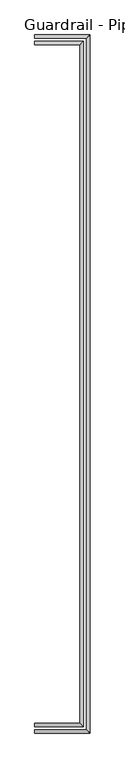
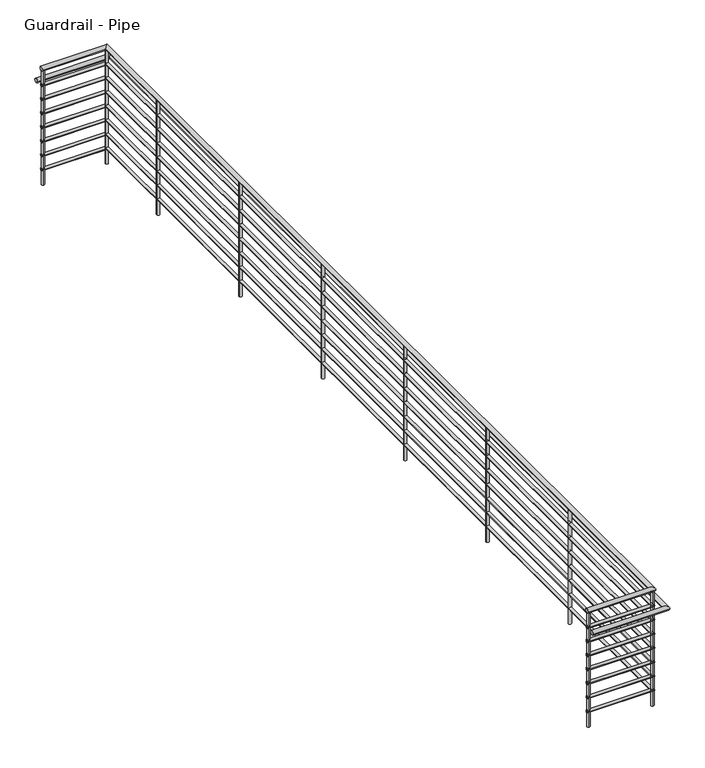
"""IFC4 building model written with IfcOpenShell, lengths in millimetres: railing geometry, Guardrail - Pipe."""

from ifc_helpers import new_model, si_unit, point, frame, frame_2d, origin, place, context, project, spatial, circle_curve, ellipse_curve, trimmed, segment, composite_curve, outline, extrude, source, transform, mapped, element, save
from ifc_brep_helpers import plane_surface, cylinder_surface, advanced_brep


def guardrail_pipe_e3ced1c5(model_context):
    return source(origin(), model_context, "Body", "SolidModel", [
        advanced_brep(
        [(13389.3313551, 21840.75, 4705.35), (13389.3313551, 21878.85, 4705.35), (13967.1813551, 21840.75, 4705.35), (13929.0813551, 21878.85, 4705.35), (13967.1813551, 29956.05, 4705.35), (13929.0813551, 29917.95, 4705.35), (13389.3313551, 29956.05, 4705.35), (13389.3313551, 29917.95, 4705.35)],
        [
            (0, 1, circle_curve(frame((13389.3313551, 21859.8, 4705.35), z_axis=(-1.0, 0.0, 0.0), x_axis=(0.0, 1.0, 0.0)), 19.05)),
            (1, 0, circle_curve(frame((13389.3313551, 21859.8, 4705.35), z_axis=(-1.0, 0.0, 0.0), x_axis=(0.0, 1.0, 0.0)), 19.05)),
            (0, 2),
            (2, 3, ellipse_curve(frame((13948.1313551, 21859.8, 4705.35), z_axis=(-0.7071067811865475, -0.7071067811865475, 0.0), x_axis=(-0.7071067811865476, 0.7071067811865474, 0.0)), 26.9407684, 19.05)),
            (3, 1),
            (3, 2, ellipse_curve(frame((13948.1313551, 21859.8, 4705.35), z_axis=(-0.7071067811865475, -0.7071067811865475, 0.0), x_axis=(-0.7071067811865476, 0.7071067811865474, 0.0)), 26.9407684, 19.05)),
            (2, 4),
            (4, 5, ellipse_curve(frame((13948.1313551, 29937.0, 4705.35), z_axis=(0.7071067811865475, -0.7071067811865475, 0.0), x_axis=(-0.7071067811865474, -0.7071067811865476, 0.0)), 26.9407684, 19.05)),
            (5, 3),
            (5, 4, ellipse_curve(frame((13948.1313551, 29937.0, 4705.35), z_axis=(0.7071067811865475, -0.7071067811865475, 0.0), x_axis=(-0.7071067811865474, -0.7071067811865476, 0.0)), 26.9407684, 19.05)),
            (6, 7, circle_curve(frame((13389.3313551, 29937.0, 4705.35), z_axis=(-1.0, 0.0, 0.0), x_axis=(0.0, -1.0, 0.0)), 19.05)),
            (7, 6, circle_curve(frame((13389.3313551, 29937.0, 4705.35), z_axis=(-1.0, 0.0, 0.0), x_axis=(0.0, -1.0, 0.0)), 19.05)),
            (4, 6),
            (7, 5),
        ],
        [
            plane_surface(frame((13389.3313551, 21859.8, 4724.4), z_axis=(-1.0, 0.0, 0.0), x_axis=(0.0, 1.0, 0.0))),
            cylinder_surface(frame((13389.3313551, 21859.8, 4705.35), z_axis=(-1.0, 0.0, 0.0), x_axis=(0.0, 1.0, 0.0)), 19.05),
            cylinder_surface(frame((13948.1313551, 21859.8, 4705.35), z_axis=(0.0, -1.0, 0.0), x_axis=(-1.0, 0.0, 0.0)), 19.05),
            plane_surface(frame((13389.3313551, 29937.0, 4724.4), z_axis=(-1.0, 0.0, 0.0), x_axis=(0.0, -1.0, 0.0))),
            cylinder_surface(frame((13948.1313551, 29937.0, 4705.35), z_axis=(1.0, 0.0, 0.0), x_axis=(0.0, -1.0, 0.0)), 19.05),
        ],
        [
            (0, [[1, 2]]),
            (1, [[-1, 3, 4, 5]]),
            (1, [[-2, -5, 6, -3]]),
            (2, [[-4, 7, 8, 9]]),
            (2, [[-6, -9, 10, -7]]),
            (3, [[11, 12]]),
            (4, [[-8, 13, -12, 14]]),
            (4, [[-10, -14, -11, -13]]),
        ],
    ),
        advanced_brep(
        [(13389.3313551, 21847.1, 4559.3), (13389.3313551, 21872.5, 4559.3), (13960.8313551, 21847.1, 4559.3), (13935.4313551, 21872.5, 4559.3), (13960.8313551, 29949.7, 4559.3), (13935.4313551, 29924.3, 4559.3), (13389.3313551, 29949.7, 4559.3), (13389.3313551, 29924.3, 4559.3)],
        [
            (0, 1, circle_curve(frame((13389.3313551, 21859.8, 4559.3), z_axis=(-1.0, 0.0, 0.0), x_axis=(0.0, 1.0, 0.0)), 12.7)),
            (1, 0, circle_curve(frame((13389.3313551, 21859.8, 4559.3), z_axis=(-1.0, 0.0, 0.0), x_axis=(0.0, 1.0, 0.0)), 12.7)),
            (0, 2),
            (2, 3, ellipse_curve(frame((13948.1313551, 21859.8, 4559.3), z_axis=(-0.7071067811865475, -0.7071067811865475, 0.0), x_axis=(-0.7071067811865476, 0.7071067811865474, 0.0)), 17.9605122, 12.7)),
            (3, 1),
            (3, 2, ellipse_curve(frame((13948.1313551, 21859.8, 4559.3), z_axis=(-0.7071067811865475, -0.7071067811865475, 0.0), x_axis=(-0.7071067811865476, 0.7071067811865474, 0.0)), 17.9605122, 12.7)),
            (2, 4),
            (4, 5, ellipse_curve(frame((13948.1313551, 29937.0, 4559.3), z_axis=(0.7071067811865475, -0.7071067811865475, 0.0), x_axis=(-0.7071067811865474, -0.7071067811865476, 0.0)), 17.9605122, 12.7)),
            (5, 3),
            (5, 4, ellipse_curve(frame((13948.1313551, 29937.0, 4559.3), z_axis=(0.7071067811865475, -0.7071067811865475, 0.0), x_axis=(-0.7071067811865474, -0.7071067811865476, 0.0)), 17.9605122, 12.7)),
            (6, 7, circle_curve(frame((13389.3313551, 29937.0, 4559.3), z_axis=(-1.0, 0.0, 0.0), x_axis=(0.0, -1.0, 0.0)), 12.7)),
            (7, 6, circle_curve(frame((13389.3313551, 29937.0, 4559.3), z_axis=(-1.0, 0.0, 0.0), x_axis=(0.0, -1.0, 0.0)), 12.7)),
            (4, 6),
            (7, 5),
        ],
        [
            plane_surface(frame((13389.3313551, 21859.8, 4572.0), z_axis=(-1.0, 0.0, 0.0), x_axis=(0.0, 1.0, 0.0))),
            cylinder_surface(frame((13389.3313551, 21859.8, 4559.3), z_axis=(-1.0, 0.0, 0.0), x_axis=(0.0, 1.0, 0.0)), 12.7),
            cylinder_surface(frame((13948.1313551, 21859.8, 4559.3), z_axis=(0.0, -1.0, 0.0), x_axis=(-1.0, 0.0, 0.0)), 12.7),
            plane_surface(frame((13389.3313551, 29937.0, 4572.0), z_axis=(-1.0, 0.0, 0.0), x_axis=(0.0, -1.0, 0.0))),
            cylinder_surface(frame((13948.1313551, 29937.0, 4559.3), z_axis=(1.0, 0.0, 0.0), x_axis=(0.0, -1.0, 0.0)), 12.7),
        ],
        [
            (0, [[1, 2]]),
            (1, [[-1, 3, 4, 5]]),
            (1, [[-2, -5, 6, -3]]),
            (2, [[-4, 7, 8, 9]]),
            (2, [[-6, -9, 10, -7]]),
            (3, [[11, 12]]),
            (4, [[-8, 13, -12, 14]]),
            (4, [[-10, -14, -11, -13]]),
        ],
    ),
        advanced_brep(
        [(13389.3313551, 21764.55, 4552.95), (13389.3313551, 21802.65, 4552.95), (14043.3813551, 21764.55, 4552.95), (14005.2813551, 21802.65, 4552.95), (14043.3813551, 30032.25, 4552.95), (14005.2813551, 29994.15, 4552.95), (13389.3313551, 30032.25, 4552.95), (13389.3313551, 29994.15, 4552.95)],
        [
            (0, 1, circle_curve(frame((13389.3313551, 21783.6, 4552.95), z_axis=(-1.0, 0.0, 0.0), x_axis=(0.0, 1.0, 0.0)), 19.05)),
            (1, 0, circle_curve(frame((13389.3313551, 21783.6, 4552.95), z_axis=(-1.0, 0.0, 0.0), x_axis=(0.0, 1.0, 0.0)), 19.05)),
            (0, 2),
            (2, 3, ellipse_curve(frame((14024.3313551, 21783.6, 4552.95), z_axis=(-0.7071067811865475, -0.7071067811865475, 0.0), x_axis=(-0.7071067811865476, 0.7071067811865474, 0.0)), 26.9407684, 19.05)),
            (3, 1),
            (3, 2, ellipse_curve(frame((14024.3313551, 21783.6, 4552.95), z_axis=(-0.7071067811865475, -0.7071067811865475, 0.0), x_axis=(-0.7071067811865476, 0.7071067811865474, 0.0)), 26.9407684, 19.05)),
            (2, 4),
            (4, 5, ellipse_curve(frame((14024.3313551, 30013.2, 4552.95), z_axis=(0.7071067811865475, -0.7071067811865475, 0.0), x_axis=(-0.7071067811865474, -0.7071067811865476, 0.0)), 26.9407684, 19.05)),
            (5, 3),
            (5, 4, ellipse_curve(frame((14024.3313551, 30013.2, 4552.95), z_axis=(0.7071067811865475, -0.7071067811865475, 0.0), x_axis=(-0.7071067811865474, -0.7071067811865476, 0.0)), 26.9407684, 19.05)),
            (6, 7, circle_curve(frame((13389.3313551, 30013.2, 4552.95), z_axis=(-1.0, 0.0, 0.0), x_axis=(0.0, -1.0, 0.0)), 19.05)),
            (7, 6, circle_curve(frame((13389.3313551, 30013.2, 4552.95), z_axis=(-1.0, 0.0, 0.0), x_axis=(0.0, -1.0, 0.0)), 19.05)),
            (4, 6),
            (7, 5),
        ],
        [
            plane_surface(frame((13389.3313551, 21783.6, 4572.0), z_axis=(-1.0, 0.0, 0.0), x_axis=(0.0, 1.0, 0.0))),
            cylinder_surface(frame((13389.3313551, 21783.6, 4552.95), z_axis=(-1.0, 0.0, 0.0), x_axis=(0.0, 1.0, 0.0)), 19.05),
            cylinder_surface(frame((14024.3313551, 21783.6, 4552.95), z_axis=(0.0, -1.0, 0.0), x_axis=(-1.0, 0.0, 0.0)), 19.05),
            plane_surface(frame((13389.3313551, 30013.2, 4572.0), z_axis=(-1.0, 0.0, 0.0), x_axis=(0.0, -1.0, 0.0))),
            cylinder_surface(frame((14024.3313551, 30013.2, 4552.95), z_axis=(1.0, 0.0, 0.0), x_axis=(0.0, -1.0, 0.0)), 19.05),
        ],
        [
            (0, [[1, 2]]),
            (1, [[-1, 3, 4, 5]]),
            (1, [[-2, -5, 6, -3]]),
            (2, [[-4, 7, 8, 9]]),
            (2, [[-6, -9, 10, -7]]),
            (3, [[11, 12]]),
            (4, [[-8, 13, -12, 14]]),
            (4, [[-10, -14, -11, -13]]),
        ],
    ),
        advanced_brep(
        [(13389.3313551, 21847.1, 4432.3), (13389.3313551, 21872.5, 4432.3), (13960.8313551, 21847.1, 4432.3), (13935.4313551, 21872.5, 4432.3), (13960.8313551, 29949.7, 4432.3), (13935.4313551, 29924.3, 4432.3), (13389.3313551, 29949.7, 4432.3), (13389.3313551, 29924.3, 4432.3)],
        [
            (0, 1, circle_curve(frame((13389.3313551, 21859.8, 4432.3), z_axis=(-1.0, 0.0, 0.0), x_axis=(0.0, 1.0, 0.0)), 12.7)),
            (1, 0, circle_curve(frame((13389.3313551, 21859.8, 4432.3), z_axis=(-1.0, 0.0, 0.0), x_axis=(0.0, 1.0, 0.0)), 12.7)),
            (0, 2),
            (2, 3, ellipse_curve(frame((13948.1313551, 21859.8, 4432.3), z_axis=(-0.7071067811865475, -0.7071067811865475, 0.0), x_axis=(-0.7071067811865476, 0.7071067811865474, 0.0)), 17.9605122, 12.7)),
            (3, 1),
            (3, 2, ellipse_curve(frame((13948.1313551, 21859.8, 4432.3), z_axis=(-0.7071067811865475, -0.7071067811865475, 0.0), x_axis=(-0.7071067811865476, 0.7071067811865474, 0.0)), 17.9605122, 12.7)),
            (2, 4),
            (4, 5, ellipse_curve(frame((13948.1313551, 29937.0, 4432.3), z_axis=(0.7071067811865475, -0.7071067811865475, 0.0), x_axis=(-0.7071067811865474, -0.7071067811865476, 0.0)), 17.9605122, 12.7)),
            (5, 3),
            (5, 4, ellipse_curve(frame((13948.1313551, 29937.0, 4432.3), z_axis=(0.7071067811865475, -0.7071067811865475, 0.0), x_axis=(-0.7071067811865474, -0.7071067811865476, 0.0)), 17.9605122, 12.7)),
            (6, 7, circle_curve(frame((13389.3313551, 29937.0, 4432.3), z_axis=(-1.0, 0.0, 0.0), x_axis=(0.0, -1.0, 0.0)), 12.7)),
            (7, 6, circle_curve(frame((13389.3313551, 29937.0, 4432.3), z_axis=(-1.0, 0.0, 0.0), x_axis=(0.0, -1.0, 0.0)), 12.7)),
            (4, 6),
            (7, 5),
        ],
        [
            plane_surface(frame((13389.3313551, 21859.8, 4445.0), z_axis=(-1.0, 0.0, 0.0), x_axis=(0.0, 1.0, 0.0))),
            cylinder_surface(frame((13389.3313551, 21859.8, 4432.3), z_axis=(-1.0, 0.0, 0.0), x_axis=(0.0, 1.0, 0.0)), 12.7),
            cylinder_surface(frame((13948.1313551, 21859.8, 4432.3), z_axis=(0.0, -1.0, 0.0), x_axis=(-1.0, 0.0, 0.0)), 12.7),
            plane_surface(frame((13389.3313551, 29937.0, 4445.0), z_axis=(-1.0, 0.0, 0.0), x_axis=(0.0, -1.0, 0.0))),
            cylinder_surface(frame((13948.1313551, 29937.0, 4432.3), z_axis=(1.0, 0.0, 0.0), x_axis=(0.0, -1.0, 0.0)), 12.7),
        ],
        [
            (0, [[1, 2]]),
            (1, [[-1, 3, 4, 5]]),
            (1, [[-2, -5, 6, -3]]),
            (2, [[-4, 7, 8, 9]]),
            (2, [[-6, -9, 10, -7]]),
            (3, [[11, 12]]),
            (4, [[-8, 13, -12, 14]]),
            (4, [[-10, -14, -11, -13]]),
        ],
    ),
        advanced_brep(
        [(13389.3313551, 21847.1, 4305.3), (13389.3313551, 21872.5, 4305.3), (13960.8313551, 21847.1, 4305.3), (13935.4313551, 21872.5, 4305.3), (13960.8313551, 29949.7, 4305.3), (13935.4313551, 29924.3, 4305.3), (13389.3313551, 29949.7, 4305.3), (13389.3313551, 29924.3, 4305.3)],
        [
            (0, 1, circle_curve(frame((13389.3313551, 21859.8, 4305.3), z_axis=(-1.0, 0.0, 0.0), x_axis=(0.0, 1.0, 0.0)), 12.7)),
            (1, 0, circle_curve(frame((13389.3313551, 21859.8, 4305.3), z_axis=(-1.0, 0.0, 0.0), x_axis=(0.0, 1.0, 0.0)), 12.7)),
            (0, 2),
            (2, 3, ellipse_curve(frame((13948.1313551, 21859.8, 4305.3), z_axis=(-0.7071067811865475, -0.7071067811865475, 0.0), x_axis=(-0.7071067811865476, 0.7071067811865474, 0.0)), 17.9605122, 12.7)),
            (3, 1),
            (3, 2, ellipse_curve(frame((13948.1313551, 21859.8, 4305.3), z_axis=(-0.7071067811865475, -0.7071067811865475, 0.0), x_axis=(-0.7071067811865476, 0.7071067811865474, 0.0)), 17.9605122, 12.7)),
            (2, 4),
            (4, 5, ellipse_curve(frame((13948.1313551, 29937.0, 4305.3), z_axis=(0.7071067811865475, -0.7071067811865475, 0.0), x_axis=(-0.7071067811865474, -0.7071067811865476, 0.0)), 17.9605122, 12.7)),
            (5, 3),
            (5, 4, ellipse_curve(frame((13948.1313551, 29937.0, 4305.3), z_axis=(0.7071067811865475, -0.7071067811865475, 0.0), x_axis=(-0.7071067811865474, -0.7071067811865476, 0.0)), 17.9605122, 12.7)),
            (6, 7, circle_curve(frame((13389.3313551, 29937.0, 4305.3), z_axis=(-1.0, 0.0, 0.0), x_axis=(0.0, -1.0, 0.0)), 12.7)),
            (7, 6, circle_curve(frame((13389.3313551, 29937.0, 4305.3), z_axis=(-1.0, 0.0, 0.0), x_axis=(0.0, -1.0, 0.0)), 12.7)),
            (4, 6),
            (7, 5),
        ],
        [
            plane_surface(frame((13389.3313551, 21859.8, 4318.0), z_axis=(-1.0, 0.0, 0.0), x_axis=(0.0, 1.0, 0.0))),
            cylinder_surface(frame((13389.3313551, 21859.8, 4305.3), z_axis=(-1.0, 0.0, 0.0), x_axis=(0.0, 1.0, 0.0)), 12.7),
            cylinder_surface(frame((13948.1313551, 21859.8, 4305.3), z_axis=(0.0, -1.0, 0.0), x_axis=(-1.0, 0.0, 0.0)), 12.7),
            plane_surface(frame((13389.3313551, 29937.0, 4318.0), z_axis=(-1.0, 0.0, 0.0), x_axis=(0.0, -1.0, 0.0))),
            cylinder_surface(frame((13948.1313551, 29937.0, 4305.3), z_axis=(1.0, 0.0, 0.0), x_axis=(0.0, -1.0, 0.0)), 12.7),
        ],
        [
            (0, [[1, 2]]),
            (1, [[-1, 3, 4, 5]]),
            (1, [[-2, -5, 6, -3]]),
            (2, [[-4, 7, 8, 9]]),
            (2, [[-6, -9, 10, -7]]),
            (3, [[11, 12]]),
            (4, [[-8, 13, -12, 14]]),
            (4, [[-10, -14, -11, -13]]),
        ],
    ),
        advanced_brep(
        [(13389.3313551, 21847.1, 4178.3), (13389.3313551, 21872.5, 4178.3), (13960.8313551, 21847.1, 4178.3), (13935.4313551, 21872.5, 4178.3), (13960.8313551, 29949.7, 4178.3), (13935.4313551, 29924.3, 4178.3), (13389.3313551, 29949.7, 4178.3), (13389.3313551, 29924.3, 4178.3)],
        [
            (0, 1, circle_curve(frame((13389.3313551, 21859.8, 4178.3), z_axis=(-1.0, 0.0, 0.0), x_axis=(0.0, 1.0, 0.0)), 12.7)),
            (1, 0, circle_curve(frame((13389.3313551, 21859.8, 4178.3), z_axis=(-1.0, 0.0, 0.0), x_axis=(0.0, 1.0, 0.0)), 12.7)),
            (0, 2),
            (2, 3, ellipse_curve(frame((13948.1313551, 21859.8, 4178.3), z_axis=(-0.7071067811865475, -0.7071067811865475, 0.0), x_axis=(-0.7071067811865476, 0.7071067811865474, 0.0)), 17.9605122, 12.7)),
            (3, 1),
            (3, 2, ellipse_curve(frame((13948.1313551, 21859.8, 4178.3), z_axis=(-0.7071067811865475, -0.7071067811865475, 0.0), x_axis=(-0.7071067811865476, 0.7071067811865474, 0.0)), 17.9605122, 12.7)),
            (2, 4),
            (4, 5, ellipse_curve(frame((13948.1313551, 29937.0, 4178.3), z_axis=(0.7071067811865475, -0.7071067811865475, 0.0), x_axis=(-0.7071067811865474, -0.7071067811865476, 0.0)), 17.9605122, 12.7)),
            (5, 3),
            (5, 4, ellipse_curve(frame((13948.1313551, 29937.0, 4178.3), z_axis=(0.7071067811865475, -0.7071067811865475, 0.0), x_axis=(-0.7071067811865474, -0.7071067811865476, 0.0)), 17.9605122, 12.7)),
            (6, 7, circle_curve(frame((13389.3313551, 29937.0, 4178.3), z_axis=(-1.0, 0.0, 0.0), x_axis=(0.0, -1.0, 0.0)), 12.7)),
            (7, 6, circle_curve(frame((13389.3313551, 29937.0, 4178.3), z_axis=(-1.0, 0.0, 0.0), x_axis=(0.0, -1.0, 0.0)), 12.7)),
            (4, 6),
            (7, 5),
        ],
        [
            plane_surface(frame((13389.3313551, 21859.8, 4191.0), z_axis=(-1.0, 0.0, 0.0), x_axis=(0.0, 1.0, 0.0))),
            cylinder_surface(frame((13389.3313551, 21859.8, 4178.3), z_axis=(-1.0, 0.0, 0.0), x_axis=(0.0, 1.0, 0.0)), 12.7),
            cylinder_surface(frame((13948.1313551, 21859.8, 4178.3), z_axis=(0.0, -1.0, 0.0), x_axis=(-1.0, 0.0, 0.0)), 12.7),
            plane_surface(frame((13389.3313551, 29937.0, 4191.0), z_axis=(-1.0, 0.0, 0.0), x_axis=(0.0, -1.0, 0.0))),
            cylinder_surface(frame((13948.1313551, 29937.0, 4178.3), z_axis=(1.0, 0.0, 0.0), x_axis=(0.0, -1.0, 0.0)), 12.7),
        ],
        [
            (0, [[1, 2]]),
            (1, [[-1, 3, 4, 5]]),
            (1, [[-2, -5, 6, -3]]),
            (2, [[-4, 7, 8, 9]]),
            (2, [[-6, -9, 10, -7]]),
            (3, [[11, 12]]),
            (4, [[-8, 13, -12, 14]]),
            (4, [[-10, -14, -11, -13]]),
        ],
    ),
        advanced_brep(
        [(13389.3313551, 21847.1, 4051.3), (13389.3313551, 21872.5, 4051.3), (13960.8313551, 21847.1, 4051.3), (13935.4313551, 21872.5, 4051.3), (13960.8313551, 29949.7, 4051.3), (13935.4313551, 29924.3, 4051.3), (13389.3313551, 29949.7, 4051.3), (13389.3313551, 29924.3, 4051.3)],
        [
            (0, 1, circle_curve(frame((13389.3313551, 21859.8, 4051.3), z_axis=(-1.0, 0.0, 0.0), x_axis=(0.0, 1.0, 0.0)), 12.7)),
            (1, 0, circle_curve(frame((13389.3313551, 21859.8, 4051.3), z_axis=(-1.0, 0.0, 0.0), x_axis=(0.0, 1.0, 0.0)), 12.7)),
            (0, 2),
            (2, 3, ellipse_curve(frame((13948.1313551, 21859.8, 4051.3), z_axis=(-0.7071067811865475, -0.7071067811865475, 0.0), x_axis=(-0.7071067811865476, 0.7071067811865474, 0.0)), 17.9605122, 12.7)),
            (3, 1),
            (3, 2, ellipse_curve(frame((13948.1313551, 21859.8, 4051.3), z_axis=(-0.7071067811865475, -0.7071067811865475, 0.0), x_axis=(-0.7071067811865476, 0.7071067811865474, 0.0)), 17.9605122, 12.7)),
            (2, 4),
            (4, 5, ellipse_curve(frame((13948.1313551, 29937.0, 4051.3), z_axis=(0.7071067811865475, -0.7071067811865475, 0.0), x_axis=(-0.7071067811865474, -0.7071067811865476, 0.0)), 17.9605122, 12.7)),
            (5, 3),
            (5, 4, ellipse_curve(frame((13948.1313551, 29937.0, 4051.3), z_axis=(0.7071067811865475, -0.7071067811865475, 0.0), x_axis=(-0.7071067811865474, -0.7071067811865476, 0.0)), 17.9605122, 12.7)),
            (6, 7, circle_curve(frame((13389.3313551, 29937.0, 4051.3), z_axis=(-1.0, 0.0, 0.0), x_axis=(0.0, -1.0, 0.0)), 12.7)),
            (7, 6, circle_curve(frame((13389.3313551, 29937.0, 4051.3), z_axis=(-1.0, 0.0, 0.0), x_axis=(0.0, -1.0, 0.0)), 12.7)),
            (4, 6),
            (7, 5),
        ],
        [
            plane_surface(frame((13389.3313551, 21859.8, 4064.0), z_axis=(-1.0, 0.0, 0.0), x_axis=(0.0, 1.0, 0.0))),
            cylinder_surface(frame((13389.3313551, 21859.8, 4051.3), z_axis=(-1.0, 0.0, 0.0), x_axis=(0.0, 1.0, 0.0)), 12.7),
            cylinder_surface(frame((13948.1313551, 21859.8, 4051.3), z_axis=(0.0, -1.0, 0.0), x_axis=(-1.0, 0.0, 0.0)), 12.7),
            plane_surface(frame((13389.3313551, 29937.0, 4064.0), z_axis=(-1.0, 0.0, 0.0), x_axis=(0.0, -1.0, 0.0))),
            cylinder_surface(frame((13948.1313551, 29937.0, 4051.3), z_axis=(1.0, 0.0, 0.0), x_axis=(0.0, -1.0, 0.0)), 12.7),
        ],
        [
            (0, [[1, 2]]),
            (1, [[-1, 3, 4, 5]]),
            (1, [[-2, -5, 6, -3]]),
            (2, [[-4, 7, 8, 9]]),
            (2, [[-6, -9, 10, -7]]),
            (3, [[11, 12]]),
            (4, [[-8, 13, -12, 14]]),
            (4, [[-10, -14, -11, -13]]),
        ],
    ),
        advanced_brep(
        [(13389.3313551, 21847.1, 3924.3), (13389.3313551, 21872.5, 3924.3), (13960.8313551, 21847.1, 3924.3), (13935.4313551, 21872.5, 3924.3), (13960.8313551, 29949.7, 3924.3), (13935.4313551, 29924.3, 3924.3), (13389.3313551, 29949.7, 3924.3), (13389.3313551, 29924.3, 3924.3)],
        [
            (0, 1, circle_curve(frame((13389.3313551, 21859.8, 3924.3), z_axis=(-1.0, 0.0, 0.0), x_axis=(0.0, 1.0, 0.0)), 12.7)),
            (1, 0, circle_curve(frame((13389.3313551, 21859.8, 3924.3), z_axis=(-1.0, 0.0, 0.0), x_axis=(0.0, 1.0, 0.0)), 12.7)),
            (0, 2),
            (2, 3, ellipse_curve(frame((13948.1313551, 21859.8, 3924.3), z_axis=(-0.7071067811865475, -0.7071067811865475, 0.0), x_axis=(-0.7071067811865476, 0.7071067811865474, 0.0)), 17.9605122, 12.7)),
            (3, 1),
            (3, 2, ellipse_curve(frame((13948.1313551, 21859.8, 3924.3), z_axis=(-0.7071067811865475, -0.7071067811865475, 0.0), x_axis=(-0.7071067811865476, 0.7071067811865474, 0.0)), 17.9605122, 12.7)),
            (2, 4),
            (4, 5, ellipse_curve(frame((13948.1313551, 29937.0, 3924.3), z_axis=(0.7071067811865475, -0.7071067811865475, 0.0), x_axis=(-0.7071067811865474, -0.7071067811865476, 0.0)), 17.9605122, 12.7)),
            (5, 3),
            (5, 4, ellipse_curve(frame((13948.1313551, 29937.0, 3924.3), z_axis=(0.7071067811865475, -0.7071067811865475, 0.0), x_axis=(-0.7071067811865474, -0.7071067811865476, 0.0)), 17.9605122, 12.7)),
            (6, 7, circle_curve(frame((13389.3313551, 29937.0, 3924.3), z_axis=(-1.0, 0.0, 0.0), x_axis=(0.0, -1.0, 0.0)), 12.7)),
            (7, 6, circle_curve(frame((13389.3313551, 29937.0, 3924.3), z_axis=(-1.0, 0.0, 0.0), x_axis=(0.0, -1.0, 0.0)), 12.7)),
            (4, 6),
            (7, 5),
        ],
        [
            plane_surface(frame((13389.3313551, 21859.8, 3937.0), z_axis=(-1.0, 0.0, 0.0), x_axis=(0.0, 1.0, 0.0))),
            cylinder_surface(frame((13389.3313551, 21859.8, 3924.3), z_axis=(-1.0, 0.0, 0.0), x_axis=(0.0, 1.0, 0.0)), 12.7),
            cylinder_surface(frame((13948.1313551, 21859.8, 3924.3), z_axis=(0.0, -1.0, 0.0), x_axis=(-1.0, 0.0, 0.0)), 12.7),
            plane_surface(frame((13389.3313551, 29937.0, 3937.0), z_axis=(-1.0, 0.0, 0.0), x_axis=(0.0, -1.0, 0.0))),
            cylinder_surface(frame((13948.1313551, 29937.0, 3924.3), z_axis=(1.0, 0.0, 0.0), x_axis=(0.0, -1.0, 0.0)), 12.7),
        ],
        [
            (0, [[1, 2]]),
            (1, [[-1, 3, 4, 5]]),
            (1, [[-2, -5, 6, -3]]),
            (2, [[-4, 7, 8, 9]]),
            (2, [[-6, -9, 10, -7]]),
            (3, [[11, 12]]),
            (4, [[-8, 13, -12, 14]]),
            (4, [[-10, -14, -11, -13]]),
        ],
    ),
        advanced_brep(
        [(13389.3313551, 21847.1, 3797.3), (13389.3313551, 21872.5, 3797.3), (13960.8313551, 21847.1, 3797.3), (13935.4313551, 21872.5, 3797.3), (13960.8313551, 29949.7, 3797.3), (13935.4313551, 29924.3, 3797.3), (13389.3313551, 29949.7, 3797.3), (13389.3313551, 29924.3, 3797.3)],
        [
            (0, 1, circle_curve(frame((13389.3313551, 21859.8, 3797.3), z_axis=(-1.0, 0.0, 0.0), x_axis=(0.0, 1.0, 0.0)), 12.7)),
            (1, 0, circle_curve(frame((13389.3313551, 21859.8, 3797.3), z_axis=(-1.0, 0.0, 0.0), x_axis=(0.0, 1.0, 0.0)), 12.7)),
            (0, 2),
            (2, 3, ellipse_curve(frame((13948.1313551, 21859.8, 3797.3), z_axis=(-0.7071067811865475, -0.7071067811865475, 0.0), x_axis=(-0.7071067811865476, 0.7071067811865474, 0.0)), 17.9605122, 12.7)),
            (3, 1),
            (3, 2, ellipse_curve(frame((13948.1313551, 21859.8, 3797.3), z_axis=(-0.7071067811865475, -0.7071067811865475, 0.0), x_axis=(-0.7071067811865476, 0.7071067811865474, 0.0)), 17.9605122, 12.7)),
            (2, 4),
            (4, 5, ellipse_curve(frame((13948.1313551, 29937.0, 3797.3), z_axis=(0.7071067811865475, -0.7071067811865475, 0.0), x_axis=(-0.7071067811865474, -0.7071067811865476, 0.0)), 17.9605122, 12.7)),
            (5, 3),
            (5, 4, ellipse_curve(frame((13948.1313551, 29937.0, 3797.3), z_axis=(0.7071067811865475, -0.7071067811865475, 0.0), x_axis=(-0.7071067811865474, -0.7071067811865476, 0.0)), 17.9605122, 12.7)),
            (6, 7, circle_curve(frame((13389.3313551, 29937.0, 3797.3), z_axis=(-1.0, 0.0, 0.0), x_axis=(0.0, -1.0, 0.0)), 12.7)),
            (7, 6, circle_curve(frame((13389.3313551, 29937.0, 3797.3), z_axis=(-1.0, 0.0, 0.0), x_axis=(0.0, -1.0, 0.0)), 12.7)),
            (4, 6),
            (7, 5),
        ],
        [
            plane_surface(frame((13389.3313551, 21859.8, 3810.0), z_axis=(-1.0, 0.0, 0.0), x_axis=(0.0, 1.0, 0.0))),
            cylinder_surface(frame((13389.3313551, 21859.8, 3797.3), z_axis=(-1.0, 0.0, 0.0), x_axis=(0.0, 1.0, 0.0)), 12.7),
            cylinder_surface(frame((13948.1313551, 21859.8, 3797.3), z_axis=(0.0, -1.0, 0.0), x_axis=(-1.0, 0.0, 0.0)), 12.7),
            plane_surface(frame((13389.3313551, 29937.0, 3810.0), z_axis=(-1.0, 0.0, 0.0), x_axis=(0.0, -1.0, 0.0))),
            cylinder_surface(frame((13948.1313551, 29937.0, 3797.3), z_axis=(1.0, 0.0, 0.0), x_axis=(0.0, -1.0, 0.0)), 12.7),
        ],
        [
            (0, [[1, 2]]),
            (1, [[-1, 3, 4, 5]]),
            (1, [[-2, -5, 6, -3]]),
            (2, [[-4, 7, 8, 9]]),
            (2, [[-6, -9, 10, -7]]),
            (3, [[11, 12]]),
            (4, [[-8, 13, -12, 14]]),
            (4, [[-10, -14, -11, -13]]),
        ],
    ),
        extrude(outline(composite_curve([segment(trimmed(circle_curve(frame_2d((13948.1313551, 29175.0)), 12.7), [point((13960.8313551, 29175.0))], [point((13935.4313551, 29175.0))], False, "CARTESIAN"), True, "CONTINUOUS"), segment(trimmed(circle_curve(frame_2d((13948.1313551, 29175.0)), 12.7), [point((13935.4313551, 29175.0))], [point((13960.8313551, 29175.0))], False, "CARTESIAN"), True, "CONTINUOUS")], self_intersect=False)), frame((0.0, 0.0, 3657.6), z_axis=(0.0, 0.0, 1.0), x_axis=(1.0, 0.0, 0.0)), (0.0, 0.0, 1.0), 1028.7),
        extrude(outline(composite_curve([segment(trimmed(circle_curve(frame_2d((13948.1313551, 27955.8)), 12.7), [point((13960.8313551, 27955.8))], [point((13935.4313551, 27955.8))], False, "CARTESIAN"), True, "CONTINUOUS"), segment(trimmed(circle_curve(frame_2d((13948.1313551, 27955.8)), 12.7), [point((13935.4313551, 27955.8))], [point((13960.8313551, 27955.8))], False, "CARTESIAN"), True, "CONTINUOUS")], self_intersect=False)), frame((0.0, 0.0, 3657.6), z_axis=(0.0, 0.0, 1.0), x_axis=(1.0, 0.0, 0.0)), (0.0, 0.0, 1.0), 1028.7),
        extrude(outline(composite_curve([segment(trimmed(circle_curve(frame_2d((13948.1313551, 26736.6)), 12.7), [point((13960.8313551, 26736.6))], [point((13935.4313551, 26736.6))], False, "CARTESIAN"), True, "CONTINUOUS"), segment(trimmed(circle_curve(frame_2d((13948.1313551, 26736.6)), 12.7), [point((13935.4313551, 26736.6))], [point((13960.8313551, 26736.6))], False, "CARTESIAN"), True, "CONTINUOUS")], self_intersect=False)), frame((0.0, 0.0, 3657.6), z_axis=(0.0, 0.0, 1.0), x_axis=(1.0, 0.0, 0.0)), (0.0, 0.0, 1.0), 1028.7),
        extrude(outline(composite_curve([segment(trimmed(circle_curve(frame_2d((13948.1313551, 25517.4)), 12.7), [point((13960.8313551, 25517.4))], [point((13935.4313551, 25517.4))], False, "CARTESIAN"), True, "CONTINUOUS"), segment(trimmed(circle_curve(frame_2d((13948.1313551, 25517.4)), 12.7), [point((13935.4313551, 25517.4))], [point((13960.8313551, 25517.4))], False, "CARTESIAN"), True, "CONTINUOUS")], self_intersect=False)), frame((0.0, 0.0, 3657.6), z_axis=(0.0, 0.0, 1.0), x_axis=(1.0, 0.0, 0.0)), (0.0, 0.0, 1.0), 1028.7),
        extrude(outline(composite_curve([segment(trimmed(circle_curve(frame_2d((13948.1313551, 24298.2)), 12.7), [point((13960.8313551, 24298.2))], [point((13935.4313551, 24298.2))], False, "CARTESIAN"), True, "CONTINUOUS"), segment(trimmed(circle_curve(frame_2d((13948.1313551, 24298.2)), 12.7), [point((13935.4313551, 24298.2))], [point((13960.8313551, 24298.2))], False, "CARTESIAN"), True, "CONTINUOUS")], self_intersect=False)), frame((0.0, 0.0, 3657.6), z_axis=(0.0, 0.0, 1.0), x_axis=(1.0, 0.0, 0.0)), (0.0, 0.0, 1.0), 1028.7),
        extrude(outline(composite_curve([segment(trimmed(circle_curve(frame_2d((13948.1313551, 23079.0)), 12.7), [point((13960.8313551, 23079.0))], [point((13935.4313551, 23079.0))], False, "CARTESIAN"), True, "CONTINUOUS"), segment(trimmed(circle_curve(frame_2d((13948.1313551, 23079.0)), 12.7), [point((13935.4313551, 23079.0))], [point((13960.8313551, 23079.0))], False, "CARTESIAN"), True, "CONTINUOUS")], self_intersect=False)), frame((0.0, 0.0, 3657.6), z_axis=(0.0, 0.0, 1.0), x_axis=(1.0, 0.0, 0.0)), (0.0, 0.0, 1.0), 1028.7),
        extrude(outline(composite_curve([segment(trimmed(circle_curve(frame_2d((13948.1313551, 29937.0)), 12.7), [point((13960.8313551, 29937.0))], [point((13935.4313551, 29937.0))], False, "CARTESIAN"), True, "CONTINUOUS"), segment(trimmed(circle_curve(frame_2d((13948.1313551, 29937.0)), 12.7), [point((13935.4313551, 29937.0))], [point((13960.8313551, 29937.0))], False, "CARTESIAN"), True, "CONTINUOUS")], self_intersect=False)), frame((0.0, 0.0, 3657.6), z_axis=(0.0, 0.0, 1.0), x_axis=(1.0, 0.0, 0.0)), (0.0, 0.0, 1.0), 1028.7),
        extrude(outline(composite_curve([segment(trimmed(circle_curve(frame_2d((13948.1313551, 21859.8)), 12.7), [point((13948.1313551, 21847.1))], [point((13948.1313551, 21872.5))], False, "CARTESIAN"), True, "CONTINUOUS"), segment(trimmed(circle_curve(frame_2d((13948.1313551, 21859.8)), 12.7), [point((13948.1313551, 21872.5))], [point((13948.1313551, 21847.1))], False, "CARTESIAN"), True, "CONTINUOUS")], self_intersect=False)), frame((0.0, 0.0, 3657.6), z_axis=(0.0, 0.0, 1.0), x_axis=(1.0, 0.0, 0.0)), (0.0, 0.0, 1.0), 1028.7),
        extrude(outline(composite_curve([segment(trimmed(circle_curve(frame_2d((13402.0313551, 29937.0)), 12.7), [point((13402.0313551, 29949.7))], [point((13402.0313551, 29924.3))], False, "CARTESIAN"), True, "CONTINUOUS"), segment(trimmed(circle_curve(frame_2d((13402.0313551, 29937.0)), 12.7), [point((13402.0313551, 29924.3))], [point((13402.0313551, 29949.7))], False, "CARTESIAN"), True, "CONTINUOUS")], self_intersect=False)), frame((0.0, 0.0, 3657.6), z_axis=(0.0, 0.0, 1.0), x_axis=(1.0, 0.0, 0.0)), (0.0, 0.0, 1.0), 1028.7),
        extrude(outline(composite_curve([segment(trimmed(circle_curve(frame_2d((13402.0313551, 21859.8)), 12.7), [point((13402.0313551, 21847.1))], [point((13402.0313551, 21872.5))], False, "CARTESIAN"), True, "CONTINUOUS"), segment(trimmed(circle_curve(frame_2d((13402.0313551, 21859.8)), 12.7), [point((13402.0313551, 21872.5))], [point((13402.0313551, 21847.1))], False, "CARTESIAN"), True, "CONTINUOUS")], self_intersect=False)), frame((0.0, 0.0, 3657.6), z_axis=(0.0, 0.0, 1.0), x_axis=(1.0, 0.0, 0.0)), (0.0, 0.0, 1.0), 1028.7),
    ])


if __name__ == "__main__":
    model = new_model("IFC4")
    model_context = context("Model", 3, world=origin())
    ifc_project = project(units=[si_unit("LENGTHUNIT", "METRE", prefix="MILLI")], contexts=[model_context])
    site = spatial("IfcSite", under=ifc_project)
    building = spatial("IfcBuilding", under=site)
    placement = place(None, origin())
    guardrail_pipe_shape = guardrail_pipe_e3ced1c5(model_context)
    element("IfcRailing", 1, ObjectType="Guardrail - Pipe", at=placement, inside=building, context=model_context, shape_type="MappedRepresentation", body=[
        mapped(guardrail_pipe_shape, transform((0.0, 0.0, 0.0), x_axis=(1.0, 0.0, 0.0), y_axis=(0.0, 1.0, 0.0), z_axis=(0.0, 0.0, 1.0))),
    ])
    save(model, "model.ifc")
